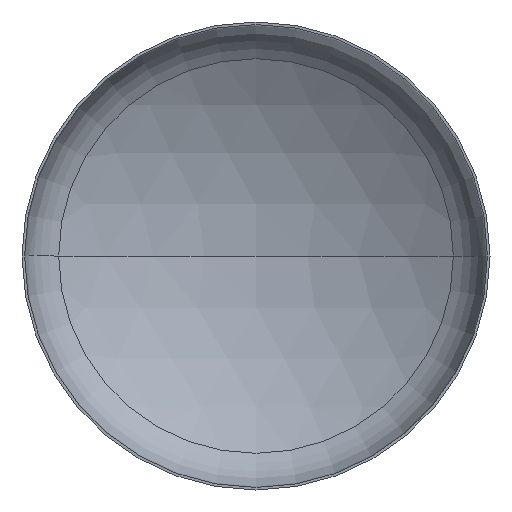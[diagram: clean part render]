
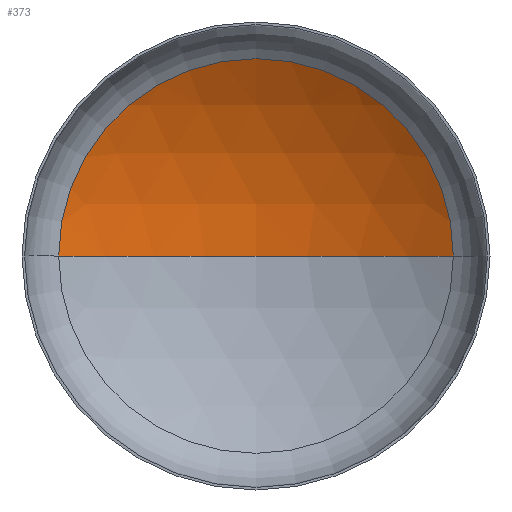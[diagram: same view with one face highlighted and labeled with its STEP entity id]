
A CAD part, front view. The second image highlights one B-rep face of the part: STEP entity #373.
In plain terms, the highlighted spherical face has radius 4800 mm.
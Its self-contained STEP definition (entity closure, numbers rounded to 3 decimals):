
#6 = AXIS2_PLACEMENT_3D ( 'NONE', #347, #176, #367 ) ;
#37 = EDGE_CURVE ( 'NONE', #359, #76, #75, .T. ) ;
#42 = CARTESIAN_POINT ( 'NONE',  ( 0., 886.144, 0. ) ) ;
#47 = ORIENTED_EDGE ( 'NONE', *, *, #383, .T. ) ;
#51 = CARTESIAN_POINT ( 'NONE',  ( 0., 1606.695, 0. ) ) ;
#52 = VERTEX_POINT ( 'NONE', #203 ) ;
#57 = ORIENTED_EDGE ( 'NONE', *, *, #411, .T. ) ;
#67 = CIRCLE ( 'NONE', #343, 2529.445 ) ;
#75 = CIRCLE ( 'NONE', #181, 4800. ) ;
#76 = VERTEX_POINT ( 'NONE', #296 ) ;
#89 = DIRECTION ( 'NONE',  ( 1., 0., 0. ) ) ;
#141 = CARTESIAN_POINT ( 'NONE',  ( 0., -3193.305, 0. ) ) ;
#172 = DIRECTION ( 'NONE',  ( -1., 0., 0. ) ) ;
#176 = DIRECTION ( 'NONE',  ( 0., 0., -1. ) ) ;
#178 = CARTESIAN_POINT ( 'NONE',  ( 0., -3193.305, 0. ) ) ;
#181 = AXIS2_PLACEMENT_3D ( 'NONE', #178, #190, #187 ) ;
#182 = SPHERICAL_SURFACE ( 'NONE', #361, 4800. ) ;
#187 = DIRECTION ( 'NONE',  ( 1., 0., 0. ) ) ;
#190 = DIRECTION ( 'NONE',  ( 0., 0., 1. ) ) ;
#203 = CARTESIAN_POINT ( 'NONE',  ( 2529.445, 886.144, 0. ) ) ;
#225 = ORIENTED_EDGE ( 'NONE', *, *, #37, .F. ) ;
#286 = DIRECTION ( 'NONE',  ( 0., -1., 0. ) ) ;
#296 = CARTESIAN_POINT ( 'NONE',  ( -2529.445, 886.144, 0. ) ) ;
#301 = EDGE_LOOP ( 'NONE', ( #225, #57, #47 ) ) ;
#332 = FACE_OUTER_BOUND ( 'NONE', #301, .T. ) ;
#342 = DIRECTION ( 'NONE',  ( 0., 0., -1. ) ) ;
#343 = AXIS2_PLACEMENT_3D ( 'NONE', #42, #286, #89 ) ;
#347 = CARTESIAN_POINT ( 'NONE',  ( 0., -3193.305, 0. ) ) ;
#359 = VERTEX_POINT ( 'NONE', #51 ) ;
#361 = AXIS2_PLACEMENT_3D ( 'NONE', #141, #342, #172 ) ;
#367 = DIRECTION ( 'NONE',  ( -1., 0., 0. ) ) ;
#373 = ADVANCED_FACE ( 'NONE', ( #332 ), #182, .F. ) ;
#376 = CIRCLE ( 'NONE', #6, 4800. ) ;
#383 = EDGE_CURVE ( 'NONE', #52, #76, #67, .T. ) ;
#411 = EDGE_CURVE ( 'NONE', #359, #52, #376, .T. ) ;
